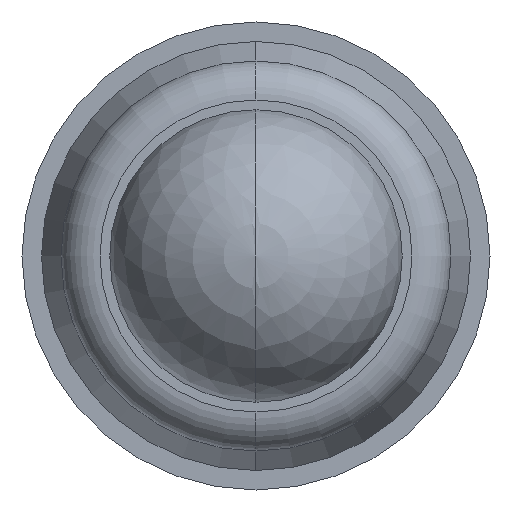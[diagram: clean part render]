
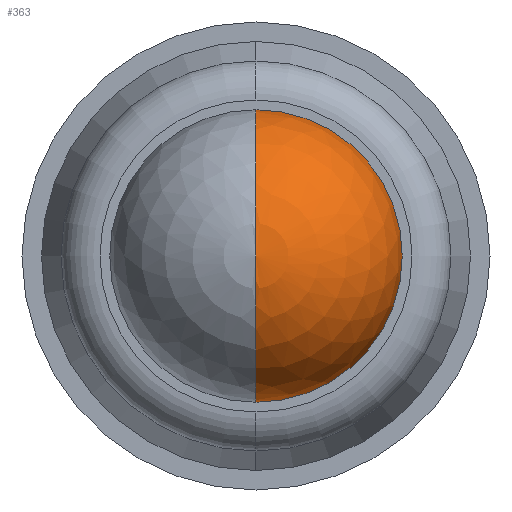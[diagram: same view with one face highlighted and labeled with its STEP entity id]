
A CAD part, left-side view. The second image highlights one B-rep face of the part: STEP entity #363.
In plain terms, the highlighted spherical face has radius 0.75 mm.
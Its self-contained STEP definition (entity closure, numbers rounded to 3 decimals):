
#29=CARTESIAN_POINT('',(-5.75,0.,0.));
#30=DIRECTION('',(0.,1.,0.));
#31=DIRECTION('',(0.,0.,-1.));
#32=AXIS2_PLACEMENT_3D('',#29,#30,#31);
#34=CARTESIAN_POINT('',(-5.75,0.,0.));
#35=DIRECTION('',(0.,-1.,0.));
#36=DIRECTION('',(0.,0.,1.));
#37=AXIS2_PLACEMENT_3D('',#34,#35,#36);
#39=CARTESIAN_POINT('',(-5.75,0.,0.));
#40=DIRECTION('',(-1.,0.,0.));
#41=DIRECTION('',(0.,0.,-1.));
#42=AXIS2_PLACEMENT_3D('',#39,#40,#41);
#244=CARTESIAN_POINT('',(-5.75,0.,-0.75));
#246=VERTEX_POINT('',#244);
#247=CARTESIAN_POINT('',(-6.5,0.,0.));
#248=VERTEX_POINT('',#247);
#276=CARTESIAN_POINT('',(-5.75,0.,0.75));
#278=VERTEX_POINT('',#276);
#351=CARTESIAN_POINT('',(-5.75,0.,0.));
#352=DIRECTION('',(1.,0.,0.));
#353=DIRECTION('',(0.,0.,1.));
#354=AXIS2_PLACEMENT_3D('',#351,#352,#353);
#355=SPHERICAL_SURFACE('',#354,0.75);
#357=ORIENTED_EDGE('',*,*,#356,.T.);
#359=ORIENTED_EDGE('',*,*,#358,.F.);
#360=ORIENTED_EDGE('',*,*,#344,.F.);
#361=EDGE_LOOP('',(#357,#359,#360));
#362=FACE_OUTER_BOUND('',#361,.F.);
#363=ADVANCED_FACE('',(#362),#355,.T.);
#33=CIRCLE('',#32,0.75);
#38=CIRCLE('',#37,0.75);
#43=CIRCLE('',#42,0.75);
#344=EDGE_CURVE('',#246,#278,#43,.T.);
#356=EDGE_CURVE('',#246,#248,#33,.T.);
#358=EDGE_CURVE('',#278,#248,#38,.T.);
